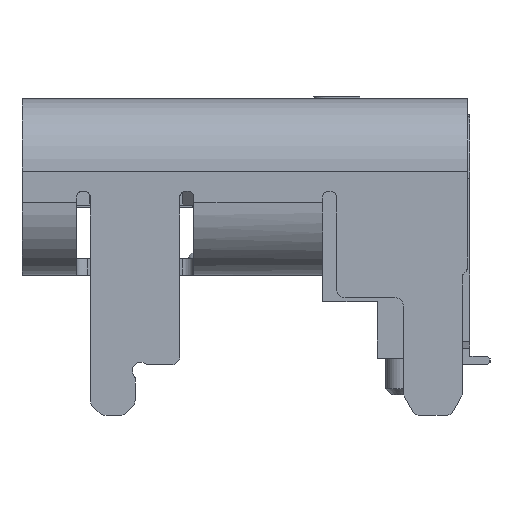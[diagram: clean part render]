
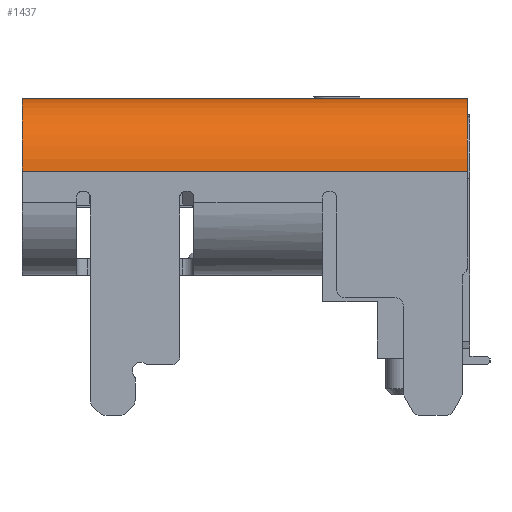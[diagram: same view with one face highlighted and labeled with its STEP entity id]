
A CAD part, left-side view. The second image highlights one B-rep face of the part: STEP entity #1437.
In plain terms, the highlighted cylindrical face has radius 1.3 mm (diameter 2.6 mm), a partial arc.
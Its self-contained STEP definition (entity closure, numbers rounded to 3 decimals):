
#1242 = CARTESIAN_POINT ( 'NONE',  ( -3.17, 0.63, -1.3 ) ) ;
#1437 = ADVANCED_FACE ( 'NONE', ( #25191 ), #30018, .T. ) ;
#1870 = EDGE_CURVE ( 'NONE', #27258, #30517, #20574, .T. ) ;
#1987 = DIRECTION ( 'NONE',  ( 0., -1., 0. ) ) ;
#2470 = ORIENTED_EDGE ( 'NONE', *, *, #25990, .F. ) ;
#3122 = VERTEX_POINT ( 'NONE', #14502 ) ;
#3823 = CARTESIAN_POINT ( 'NONE',  ( -3.17, -7.32, -1.3 ) ) ;
#4734 = VECTOR ( 'NONE', #21711, 1000. ) ;
#7063 = EDGE_LOOP ( 'NONE', ( #2470, #25431, #29276, #29261 ) ) ;
#7090 = EDGE_CURVE ( 'NONE', #30517, #3122, #13542, .T. ) ;
#9880 = AXIS2_PLACEMENT_3D ( 'NONE', #3823, #13002, #30330 ) ;
#9998 = LINE ( 'NONE', #21858, #4734 ) ;
#10759 = DIRECTION ( 'NONE',  ( 0., -1., 0. ) ) ;
#12178 = VECTOR ( 'NONE', #14008, 1000. ) ;
#13002 = DIRECTION ( 'NONE',  ( 0., 1., 0. ) ) ;
#13188 = CARTESIAN_POINT ( 'NONE',  ( -3.17, -7.32, 0. ) ) ;
#13542 = CIRCLE ( 'NONE', #17519, 1.3 ) ;
#13677 = CARTESIAN_POINT ( 'NONE',  ( -3.17, -7.32, -1.3 ) ) ;
#14008 = DIRECTION ( 'NONE',  ( 0., 1., 0. ) ) ;
#14502 = CARTESIAN_POINT ( 'NONE',  ( -4.47, 0.63, -1.3 ) ) ;
#16020 = DIRECTION ( 'NONE',  ( -1., 0., 0. ) ) ;
#17519 = AXIS2_PLACEMENT_3D ( 'NONE', #1242, #10759, #19934 ) ;
#19550 = VERTEX_POINT ( 'NONE', #23692 ) ;
#19934 = DIRECTION ( 'NONE',  ( -1., 0., 0. ) ) ;
#20574 = LINE ( 'NONE', #21038, #12178 ) ;
#20591 = AXIS2_PLACEMENT_3D ( 'NONE', #13677, #1987, #16020 ) ;
#21038 = CARTESIAN_POINT ( 'NONE',  ( -3.17, -7.32, 0. ) ) ;
#21711 = DIRECTION ( 'NONE',  ( 0., -1., 0. ) ) ;
#21858 = CARTESIAN_POINT ( 'NONE',  ( -4.47, -7.32, -1.3 ) ) ;
#23692 = CARTESIAN_POINT ( 'NONE',  ( -4.47, -7.32, -1.3 ) ) ;
#25191 = FACE_OUTER_BOUND ( 'NONE', #7063, .T. ) ;
#25431 = ORIENTED_EDGE ( 'NONE', *, *, #1870, .T. ) ;
#25990 = EDGE_CURVE ( 'NONE', #27258, #19550, #30550, .T. ) ;
#27258 = VERTEX_POINT ( 'NONE', #13188 ) ;
#27921 = EDGE_CURVE ( 'NONE', #3122, #19550, #9998, .T. ) ;
#28666 = CARTESIAN_POINT ( 'NONE',  ( -3.17, 0.63, 0. ) ) ;
#29261 = ORIENTED_EDGE ( 'NONE', *, *, #27921, .T. ) ;
#29276 = ORIENTED_EDGE ( 'NONE', *, *, #7090, .T. ) ;
#30018 = CYLINDRICAL_SURFACE ( 'NONE', #9880, 1.3 ) ;
#30330 = DIRECTION ( 'NONE',  ( -1., 0., 0. ) ) ;
#30517 = VERTEX_POINT ( 'NONE', #28666 ) ;
#30550 = CIRCLE ( 'NONE', #20591, 1.3 ) ;
